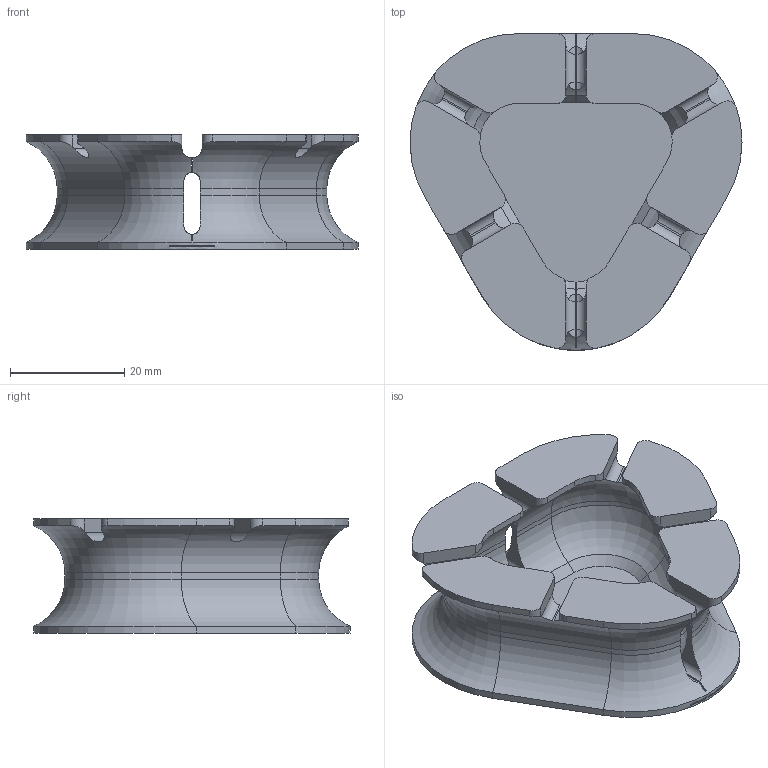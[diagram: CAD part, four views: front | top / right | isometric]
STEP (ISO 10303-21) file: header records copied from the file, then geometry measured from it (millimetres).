
FILE_DESCRIPTION (( 'STEP AP214' ), '1' );
FILE_NAME ('Earbud Case v1-4 EXTRA LARGE - 3.5mm.STEP', '2018-04-27T23:11:59', ( '' ), ( '' ), 'SwSTEP 2.0', 'SolidWorks 2015', '' );
FILE_SCHEMA (( 'AUTOMOTIVE_DESIGN' ));
Length unit declared in the file: millimetre
Products named in the file (2): Earbud Case v1-4 EXTRA LARGE - 3.5mm
Bounding box: 58 x 55.32 x 20 mm (x, y, z)
Volume: 13383.7 mm3; surface area: 12242.5 mm2
Topology: 1 solids, 1 shells, 181 faces, 492 edges, 312 vertices
Faces by surface type: cylinder 91, plane 71, torus 15, cone 4
Entity records: 6455 total; most frequent: CARTESIAN_POINT 1916, ORIENTED_EDGE 984, DIRECTION 909, EDGE_CURVE 492, AXIS2_PLACEMENT_3D 334, VERTEX_POINT 312, LINE 241, VECTOR 241
